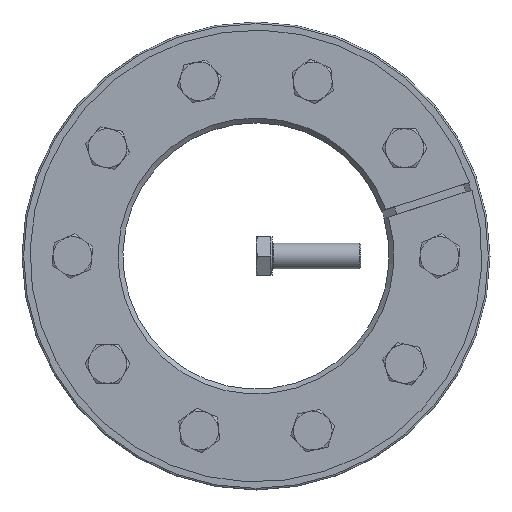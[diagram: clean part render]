
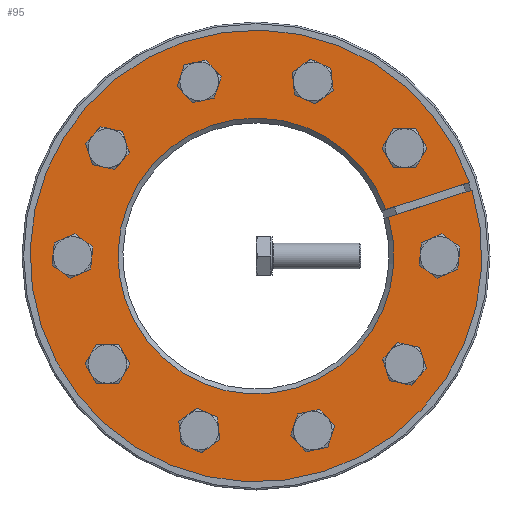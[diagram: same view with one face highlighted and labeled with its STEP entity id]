
A CAD part, front view. The second image highlights one B-rep face of the part: STEP entity #95.
In plain terms, the highlighted planar face has unit normal (0, -1, 0).
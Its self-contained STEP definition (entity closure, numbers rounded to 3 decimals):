
#95 = ADVANCED_FACE( '', ( #199, #200, #201, #202, #203, #204, #205, #206, #207, #208, #209 ), #210, .F. );
#199 = FACE_BOUND( '', #342, .T. );
#200 = FACE_BOUND( '', #343, .T. );
#201 = FACE_BOUND( '', #344, .T. );
#202 = FACE_BOUND( '', #345, .T. );
#203 = FACE_BOUND( '', #346, .T. );
#204 = FACE_BOUND( '', #347, .T. );
#205 = FACE_BOUND( '', #348, .T. );
#206 = FACE_BOUND( '', #349, .T. );
#207 = FACE_BOUND( '', #350, .T. );
#208 = FACE_BOUND( '', #351, .T. );
#209 = FACE_OUTER_BOUND( '', #352, .T. );
#210 = PLANE( '', #353 );
#342 = EDGE_LOOP( '', ( #573 ) );
#343 = EDGE_LOOP( '', ( #574 ) );
#344 = EDGE_LOOP( '', ( #575 ) );
#345 = EDGE_LOOP( '', ( #576 ) );
#346 = EDGE_LOOP( '', ( #577 ) );
#347 = EDGE_LOOP( '', ( #578 ) );
#348 = EDGE_LOOP( '', ( #579 ) );
#349 = EDGE_LOOP( '', ( #580 ) );
#350 = EDGE_LOOP( '', ( #581 ) );
#351 = EDGE_LOOP( '', ( #582 ) );
#352 = EDGE_LOOP( '', ( #583, #584, #585, #586 ) );
#353 = AXIS2_PLACEMENT_3D( '', #587, #588, #589 );
#573 = ORIENTED_EDGE( '', *, *, #781, .T. );
#574 = ORIENTED_EDGE( '', *, *, #785, .T. );
#575 = ORIENTED_EDGE( '', *, *, #732, .T. );
#576 = ORIENTED_EDGE( '', *, *, #786, .T. );
#577 = ORIENTED_EDGE( '', *, *, #775, .T. );
#578 = ORIENTED_EDGE( '', *, *, #729, .T. );
#579 = ORIENTED_EDGE( '', *, *, #787, .T. );
#580 = ORIENTED_EDGE( '', *, *, #735, .T. );
#581 = ORIENTED_EDGE( '', *, *, #788, .T. );
#582 = ORIENTED_EDGE( '', *, *, #743, .T. );
#583 = ORIENTED_EDGE( '', *, *, #759, .T. );
#584 = ORIENTED_EDGE( '', *, *, #789, .T. );
#585 = ORIENTED_EDGE( '', *, *, #757, .F. );
#586 = ORIENTED_EDGE( '', *, *, #790, .T. );
#587 = CARTESIAN_POINT( '', ( 0., 0., 145. ) );
#588 = DIRECTION( '', ( 0., 1., 0. ) );
#589 = DIRECTION( '', ( 0., 0., 1. ) );
#729 = EDGE_CURVE( '', #866, #866, #867, .T. );
#732 = EDGE_CURVE( '', #871, #871, #872, .T. );
#735 = EDGE_CURVE( '', #876, #876, #877, .T. );
#743 = EDGE_CURVE( '', #890, #890, #891, .T. );
#757 = EDGE_CURVE( '', #913, #899, #915, .T. );
#759 = EDGE_CURVE( '', #917, #918, #919, .T. );
#775 = EDGE_CURVE( '', #942, #942, #943, .T. );
#781 = EDGE_CURVE( '', #952, #952, #953, .T. );
#785 = EDGE_CURVE( '', #957, #957, #958, .T. );
#786 = EDGE_CURVE( '', #959, #959, #960, .T. );
#787 = EDGE_CURVE( '', #961, #961, #962, .T. );
#788 = EDGE_CURVE( '', #963, #963, #964, .T. );
#789 = EDGE_CURVE( '', #918, #899, #965, .T. );
#790 = EDGE_CURVE( '', #913, #917, #966, .T. );
#866 = VERTEX_POINT( '', #1161 );
#867 = CIRCLE( '', #1162, 8. );
#871 = VERTEX_POINT( '', #1166 );
#872 = CIRCLE( '', #1167, 8. );
#876 = VERTEX_POINT( '', #1171 );
#877 = CIRCLE( '', #1172, 8. );
#890 = VERTEX_POINT( '', #1187 );
#891 = CIRCLE( '', #1188, 8. );
#899 = VERTEX_POINT( '', #1198 );
#913 = VERTEX_POINT( '', #1223 );
#915 = LINE( '', #1228, #1229 );
#917 = VERTEX_POINT( '', #1231 );
#918 = VERTEX_POINT( '', #1232 );
#919 = LINE( '', #1233, #1234 );
#942 = VERTEX_POINT( '', #1274 );
#943 = CIRCLE( '', #1275, 8. );
#952 = VERTEX_POINT( '', #1284 );
#953 = CIRCLE( '', #1285, 8. );
#957 = VERTEX_POINT( '', #1289 );
#958 = CIRCLE( '', #1290, 8. );
#959 = VERTEX_POINT( '', #1291 );
#960 = CIRCLE( '', #1292, 8. );
#961 = VERTEX_POINT( '', #1293 );
#962 = CIRCLE( '', #1294, 8. );
#963 = VERTEX_POINT( '', #1295 );
#964 = CIRCLE( '', #1296, 8. );
#965 = CIRCLE( '', #1297, 85.5 );
#966 = CIRCLE( '', #1298, 140. );
#1161 = CARTESIAN_POINT( '', ( 113.75, 0., -8. ) );
#1162 = AXIS2_PLACEMENT_3D( '', #1372, #1373, #1374 );
#1166 = CARTESIAN_POINT( '', ( -113.75, 0., 8. ) );
#1167 = AXIS2_PLACEMENT_3D( '', #1378, #1379, #1380 );
#1171 = CARTESIAN_POINT( '', ( -87.323, 0., 73.333 ) );
#1172 = AXIS2_PLACEMENT_3D( '', #1384, #1385, #1386 );
#1187 = CARTESIAN_POINT( '', ( 27.542, 0., -110.655 ) );
#1188 = AXIS2_PLACEMENT_3D( '', #1398, #1399, #1400 );
#1198 = CARTESIAN_POINT( '', ( 80.508, 0., 28.787 ) );
#1223 = CARTESIAN_POINT( '', ( 132.354, 0., 45.633 ) );
#1228 = CARTESIAN_POINT( '', ( 132.375, 0., 45.64 ) );
#1229 = VECTOR( '', #1411, 1000. );
#1231 = CARTESIAN_POINT( '', ( 133.899, 0., 40.878 ) );
#1232 = CARTESIAN_POINT( '', ( 82.053, 0., 24.032 ) );
#1233 = CARTESIAN_POINT( '', ( 133.92, 0., 40.885 ) );
#1234 = VECTOR( '', #1412, 1000. );
#1274 = CARTESIAN_POINT( '', ( 96.728, 0., 60.388 ) );
#1275 = AXIS2_PLACEMENT_3D( '', #1424, #1425, #1426 );
#1284 = CARTESIAN_POINT( '', ( 87.323, 0., -73.333 ) );
#1285 = AXIS2_PLACEMENT_3D( '', #1436, #1437, #1438 );
#1289 = CARTESIAN_POINT( '', ( -42.759, 0., -105.711 ) );
#1290 = AXIS2_PLACEMENT_3D( '', #1442, #1443, #1444 );
#1291 = CARTESIAN_POINT( '', ( -27.542, 0., 110.655 ) );
#1292 = AXIS2_PLACEMENT_3D( '', #1445, #1446, #1447 );
#1293 = CARTESIAN_POINT( '', ( 42.759, 0., 105.711 ) );
#1294 = AXIS2_PLACEMENT_3D( '', #1448, #1449, #1450 );
#1295 = CARTESIAN_POINT( '', ( -96.728, 0., -60.388 ) );
#1296 = AXIS2_PLACEMENT_3D( '', #1451, #1452, #1453 );
#1297 = AXIS2_PLACEMENT_3D( '', #1454, #1455, #1456 );
#1298 = AXIS2_PLACEMENT_3D( '', #1457, #1458, #1459 );
#1372 = CARTESIAN_POINT( '', ( 113.75, 0., 0. ) );
#1373 = DIRECTION( '', ( 0., 1., 0. ) );
#1374 = DIRECTION( '', ( 0., 0., -1. ) );
#1378 = CARTESIAN_POINT( '', ( -113.75, 0., 0. ) );
#1379 = DIRECTION( '', ( 0., 1., 0. ) );
#1380 = DIRECTION( '', ( 0., 0., 1. ) );
#1384 = CARTESIAN_POINT( '', ( -92.026, 0., 66.861 ) );
#1385 = DIRECTION( '', ( 0., 1., 0. ) );
#1386 = DIRECTION( '', ( 0.588, 0., 0.809 ) );
#1398 = CARTESIAN_POINT( '', ( 35.151, 0., -108.183 ) );
#1399 = DIRECTION( '', ( 0., 1., 0. ) );
#1400 = DIRECTION( '', ( -0.951, 0., -0.309 ) );
#1411 = DIRECTION( '', ( -0.951, 0., -0.309 ) );
#1412 = DIRECTION( '', ( -0.951, 0., -0.309 ) );
#1424 = CARTESIAN_POINT( '', ( 92.026, 0., 66.861 ) );
#1425 = DIRECTION( '', ( 0., 1., 0. ) );
#1426 = DIRECTION( '', ( 0.588, 0., -0.809 ) );
#1436 = CARTESIAN_POINT( '', ( 92.026, 0., -66.861 ) );
#1437 = DIRECTION( '', ( 0., 1., 0. ) );
#1438 = DIRECTION( '', ( -0.588, 0., -0.809 ) );
#1442 = CARTESIAN_POINT( '', ( -35.151, 0., -108.183 ) );
#1443 = DIRECTION( '', ( 0., 1., 0. ) );
#1444 = DIRECTION( '', ( -0.951, 0., 0.309 ) );
#1445 = CARTESIAN_POINT( '', ( -35.151, 0., 108.183 ) );
#1446 = DIRECTION( '', ( 0., 1., 0. ) );
#1447 = DIRECTION( '', ( 0.951, 0., 0.309 ) );
#1448 = CARTESIAN_POINT( '', ( 35.151, 0., 108.183 ) );
#1449 = DIRECTION( '', ( 0., 1., 0. ) );
#1450 = DIRECTION( '', ( 0.951, 0., -0.309 ) );
#1451 = CARTESIAN_POINT( '', ( -92.026, 0., -66.861 ) );
#1452 = DIRECTION( '', ( 0., 1., 0. ) );
#1453 = DIRECTION( '', ( -0.588, 0., 0.809 ) );
#1454 = CARTESIAN_POINT( '', ( 0., 0., 0. ) );
#1455 = DIRECTION( '', ( 0., 1., 0. ) );
#1456 = DIRECTION( '', ( 0., 0., 1. ) );
#1457 = CARTESIAN_POINT( '', ( 0., 0., 0. ) );
#1458 = DIRECTION( '', ( 0., -1., 0. ) );
#1459 = DIRECTION( '', ( 0., 0., -1. ) );
